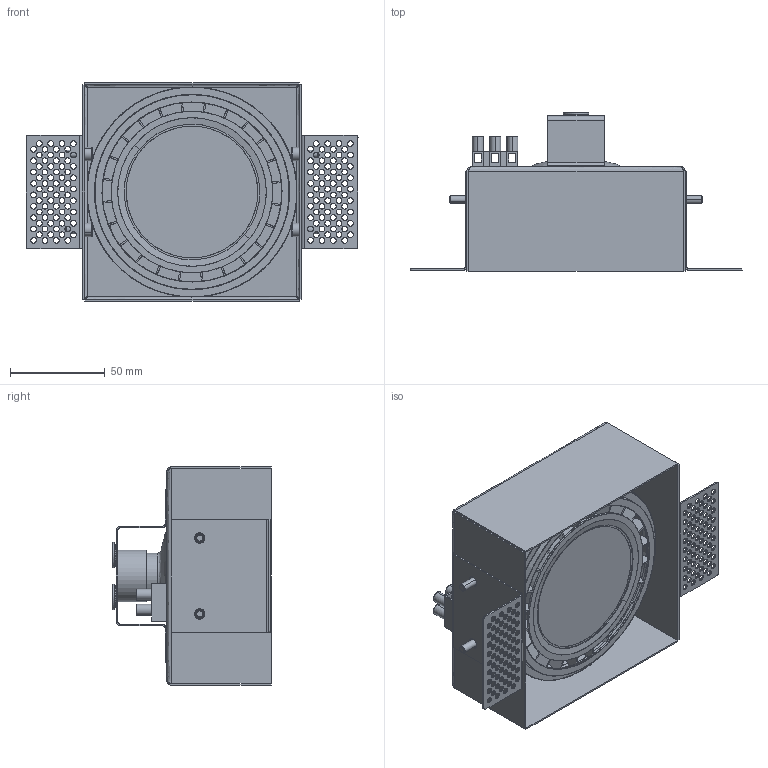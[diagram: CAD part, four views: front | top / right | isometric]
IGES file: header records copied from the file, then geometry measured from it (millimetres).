
Start section: SolidWorks IGES file using analytic representation for surfaces
Global section: file name: E:\3D lampy\Mod\Mod plus\Mod Plus_9404,9408.IGS; native system: SolidWorks 2017; preprocessor: SolidWorks 2017; author: Asia; date: 180302.104936; units: millimetre
Bounding box: 175 x 83.6 x 115 mm (x, y, z)
Surface area: 163204.1 mm2 (no closed solid volume)
Topology: 0 solids, 0 shells, 1331 faces, 21193 edges, 21174 vertices
Faces by surface type: revolution 673, bspline 658
